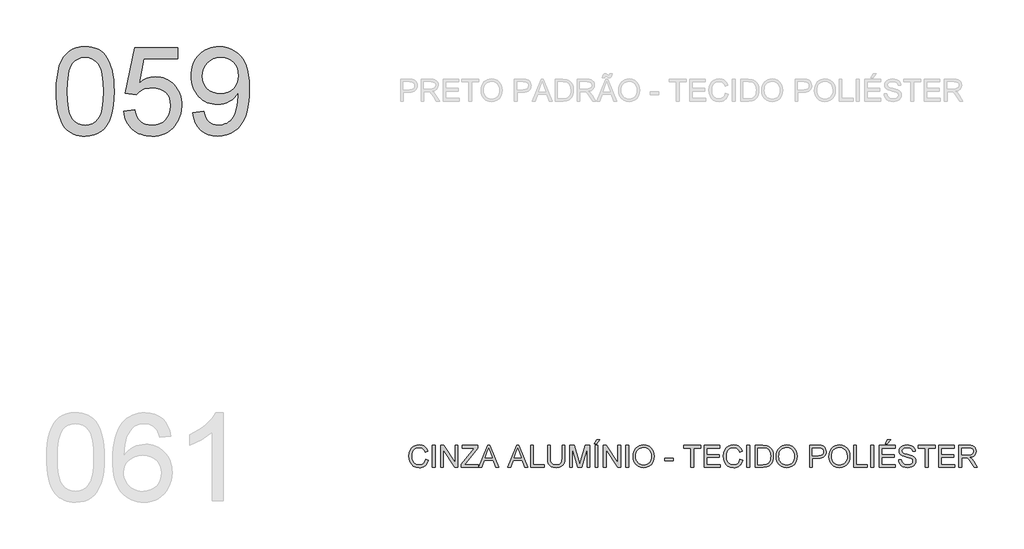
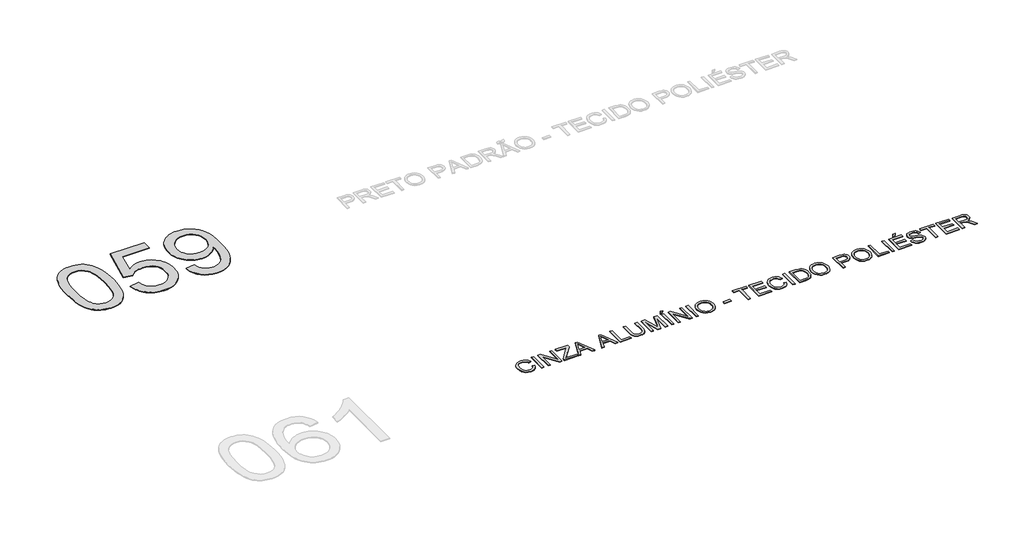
# One storey, part 13 of 67: 2 proxies.
"""IFC4 building model written with IfcOpenShell, lengths in millimetres."""

import ifcopenshell
import ifcopenshell.guid

model = None  # the IFC model being written
_history = None  # IfcOwnerHistory: only IFC2X3 demands one
_inside = {}  # id of a spatial element -> (the spatial element, [elements in it])
_under = {}  # id of a project, library or spatial element -> (it, [spatial elements below it])
_declared = {}  # id of a project -> (the project, [libraries it declares])
_typed = {}  # id of a type object -> (the type object, [elements of that type])
_made_of = {}  # id of a material, layer set ... -> (it, [elements and type objects made of it])


def new_model(schema):
    """Start an empty IFC model of exactly this schema.

    Asked for "IFC4X3", IfcOpenShell would pick the latest addendum, in which some entities
    have other attributes; the version numbers below select the first issue.
    IFC2X3 requires an IfcOwnerHistory on every rooted entity: one is made here for all.
    """
    global model, _history
    if schema == "IFC4X3":
        model = ifcopenshell.file(schema_version=(4, 3, 0, 0))
    else:
        model = ifcopenshell.file(schema=schema)
    _inside.clear()
    _under.clear()
    _declared.clear()
    _typed.clear()
    _made_of.clear()
    _history = None
    if model.schema == "IFC2X3":
        org = make("IfcOrganization", Name="unknown")
        user = make(
            "IfcPersonAndOrganization",
            ThePerson=make("IfcPerson", FamilyName="unknown"),
            TheOrganization=org,
        )
        app = make(
            "IfcApplication",
            ApplicationDeveloper=org,
            Version="unknown",
            ApplicationFullName="unknown",
            ApplicationIdentifier="unknown",
        )
        _history = make(
            "IfcOwnerHistory",
            OwningUser=user,
            OwningApplication=app,
            ChangeAction="ADDED",
            CreationDate=0,
        )
    return model


def make(cls, **values):
    """One entity of the class cls with the attributes given. An attribute that is None is left unset."""
    return model.create_entity(
        cls, **{name: value for name, value in values.items() if value is not None}
    )


def rooted(cls, **values):
    """An entity with a GlobalId (a new one), such as an element, a storey or a relation."""
    return make(cls, GlobalId=ifcopenshell.guid.new(), OwnerHistory=_history, **values)


def si_unit(unit_type, name, prefix=None):
    """IfcSIUnit, for example si_unit("LENGTHUNIT", "METRE", prefix="MILLI")."""
    return make("IfcSIUnit", UnitType=unit_type, Prefix=prefix, Name=name)


def assignment(units):
    """IfcUnitAssignment: the units of a project."""
    return None if units is None else make("IfcUnitAssignment", Units=units)


def point(xyz):
    """IfcCartesianPoint."""
    return None if xyz is None else make("IfcCartesianPoint", Coordinates=xyz)


def direction(xyz):
    """IfcDirection."""
    return None if xyz is None else make("IfcDirection", DirectionRatios=xyz)


def frame(location, z_axis=None, x_axis=None):
    """IfcAxis2Placement3D, a coordinate frame: its origin and axes. An axis left out is left unset."""
    return make(
        "IfcAxis2Placement3D",
        Location=point(location),
        Axis=direction(z_axis),
        RefDirection=direction(x_axis),
    )


def origin():
    """The frame at (0, 0, 0) with its axes left unset."""
    return frame((0.0, 0.0, 0.0))


def origin_with_axes():
    """The frame at (0, 0, 0) with the z axis (0, 0, 1) and the x axis (1, 0, 0) written out."""
    return frame((0.0, 0.0, 0.0), z_axis=(0.0, 0.0, 1.0), x_axis=(1.0, 0.0, 0.0))


def place(relative_to, where):
    """IfcLocalPlacement: puts the frame where relative to a parent placement (None: the world)."""
    return make(
        "IfcLocalPlacement", PlacementRelTo=relative_to, RelativePlacement=where
    )


def context(
    kind, dimensions, precision=None, world=None, true_north=None, identifier=None
):
    """IfcGeometricRepresentationContext, for example the 3D "Model" context."""
    return make(
        "IfcGeometricRepresentationContext",
        ContextIdentifier=identifier,
        ContextType=kind,
        CoordinateSpaceDimension=dimensions,
        Precision=precision,
        WorldCoordinateSystem=world,
        TrueNorth=true_north,
    )


def project(units=None, contexts=None):
    """IfcProject with its units and contexts."""
    return rooted(
        "IfcProject",
        Name="project",
        RepresentationContexts=contexts,
        UnitsInContext=assignment(units),
    )


def spatial(cls, under=None, at=None, **own):
    """A site, building, storey or space (cls), placed at a placement, below another one or the project."""
    s = rooted(cls, ObjectPlacement=at, **own)
    if under is not None:
        _under.setdefault(under.id(), (under, []))[1].append(s)
    return s


def polyline(points):
    """IfcPolyline through the points."""
    return make("IfcPolyline", Points=[point(p) for p in points])


def outline(outer, holes=None, kind="AREA"):
    """IfcArbitraryClosedProfileDef: a profile drawn as a closed curve; with holes, ...WithVoids."""
    if holes is None:
        return make("IfcArbitraryClosedProfileDef", ProfileType=kind, OuterCurve=outer)
    return make(
        "IfcArbitraryProfileDefWithVoids",
        ProfileType=kind,
        OuterCurve=outer,
        InnerCurves=holes,
    )


def extrude(swept, where, along, depth):
    """IfcExtrudedAreaSolid: the profile swept, set in the frame where, extruded along a direction by depth."""
    return make(
        "IfcExtrudedAreaSolid",
        SweptArea=swept,
        Position=where,
        ExtrudedDirection=direction(along),
        Depth=depth,
    )


def shape(context_of_items, identifier, shape_type, items):
    """IfcShapeRepresentation: the items that make up one representation, for example the "Body"."""
    return make(
        "IfcShapeRepresentation",
        ContextOfItems=context_of_items,
        RepresentationIdentifier=identifier,
        RepresentationType=shape_type,
        Items=items,
    )


def made_of(thing, what):
    """Note that an element or type object is made of a material, layer set ...; save() writes the relation."""
    if what is not None:
        _made_of.setdefault(what.id(), (what, []))[1].append(thing)
    return thing


def element(
    cls,
    number,
    at=None,
    inside=None,
    cuts=None,
    type_object=None,
    material=None,
    context=None,
    identifier="Body",
    shape_type=None,
    held_by="IfcProductDefinitionShape",
    body=None,
    shapes=None,
    **own,
):
    """One element of the class cls, such as IfcWall. Its Tag is "e" and its number.

    at: its placement. inside: the storey or other place that contains it. cuts: it is an
    opening in that element (IfcRelVoidsElement). A single representation is given by context,
    identifier, shape_type and body (its items); several are given by shapes. held_by: the class
    of the entity that holds the representations. save() writes the other relations.
    """
    e = rooted(cls, Tag="e%d" % number, ObjectPlacement=at, **own)
    if body is not None:
        shapes = [shape(context, identifier, shape_type, body)]
    if shapes is not None:
        e.Representation = make(held_by, Representations=shapes)
    if inside is not None:
        _inside.setdefault(inside.id(), (inside, []))[1].append(e)
    if cuts is not None:
        rooted(
            "IfcRelVoidsElement", RelatingBuildingElement=cuts, RelatedOpeningElement=e
        )
    if type_object is not None:
        _typed.setdefault(type_object.id(), (type_object, []))[1].append(e)
    return made_of(e, material)


def aggregate(whole, parts):
    """IfcRelAggregates: a whole, such as a stair, and the parts it consists of."""
    return rooted("IfcRelAggregates", RelatingObject=whole, RelatedObjects=parts)


def save(model, path):
    """Write the relations noted so far, then the file.

    IfcRelAggregates (storeys below a building ...), IfcRelContainedInSpatialStructure (elements
    in a storey), IfcRelDefinesByType, IfcRelAssociatesMaterial and IfcRelDeclares: one each for
    every whole, place, type object, material and project.
    """
    for whole, parts in _under.values():
        aggregate(whole, parts)
    for where, things in _inside.values():
        rooted(
            "IfcRelContainedInSpatialStructure",
            RelatedElements=things,
            RelatingStructure=where,
        )
    for kind, things in _typed.values():
        rooted("IfcRelDefinesByType", RelatedObjects=things, RelatingType=kind)
    for what, things in _made_of.values():
        rooted("IfcRelAssociatesMaterial", RelatedObjects=things, RelatingMaterial=what)
    for by, libraries in _declared.values():
        rooted("IfcRelDeclares", RelatingContext=by, RelatedDefinitions=libraries)
    model.write(path)


model = new_model("IFC4")

# Units and contexts
model_context = context("Model", 3, world=origin())
ifc_project = project(units=[si_unit("LENGTHUNIT", "METRE", prefix="MILLI")], contexts=[model_context])

# Site, building, storey
site = spatial("IfcSite", under=ifc_project)
building = spatial("IfcBuilding", under=site)
storey = spatial("IfcBuildingStorey", under=building, Name="Marelli - Linha COLAB - Planta Baixa", Elevation=0.0)

# Proxies
placement = place(None, origin())
element("IfcBuildingElementProxy", 1, Name="1200mm Arial", ObjectType="1200mm Arial", at=placement, inside=storey, context=model_context, shape_type="SweptSolid", body=[
    extrude(outline(polyline([(-25134.0424838, -59895.792664), (-25131.2741718, -59794.4319773), (-25122.9692358, -59702.8385576), (-25109.1276757, -59621.0124048), (-25089.7494916, -59548.953519), (-25064.9174569, -59486.073289), (-25034.7143451, -59431.7831035), (-24999.1401562, -59386.0829627), (-24958.1948901, -59348.9728664), (-24911.7405912, -59320.2596767), (-24859.6393036, -59299.7502555), (-24801.8910274, -59287.4446027), (-24738.4957626, -59283.3427185), (-24690.8550442, -59285.7707396), (-24645.642347, -59293.0548031), (-24602.857671, -59305.194909), (-24562.5010161, -59322.1910572), (-24525.5472697, -59343.7581391), (-24492.971319, -59369.6110463), (-24464.7731641, -59399.7497788), (-24440.9528049, -59434.1743365), (-24420.314625, -59472.7467637), (-24401.6630078, -59515.3291046), (-24370.3194618, -59612.5235278), (-24358.3449029, -59669.6831928), (-24349.7916465, -59735.9479371), (-24344.6596927, -59811.3177609), (-24342.9490414, -59895.792664), (-24345.6897623, -59996.5095573), (-24353.9119248, -60087.6431245), (-24367.6155292, -60169.1933658), (-24386.8005752, -60241.1602811), (-24411.4394718, -60304.0681023), (-24441.5046279, -60358.4410612), (-24476.9960434, -60404.2791578), (-24517.9137183, -60441.5823921), (-24564.4231995, -60470.4887199), (-24616.690034, -60491.1360968), (-24674.7142217, -60503.524523), (-24738.4957626, -60507.6539984), (-24781.170074, -60505.8605737), (-24821.4899407, -60500.4802995), (-24859.4553626, -60491.5131759), (-24895.0663398, -60478.9592028), (-24928.3228721, -60462.8183803), (-24959.2249597, -60443.0907083), (-24987.7726025, -60419.7761868), (-25013.9658006, -60392.8748159), (-25042.1087732, -60350.2786794), (-25066.4993495, -60302.0999336), (-25087.1375294, -60248.3385785), (-25104.023313, -60188.9946142), (-25117.1567002, -60124.0680406), (-25126.5376911, -60053.5588577), (-25132.1662856, -59977.4670655), (-25134.0424838, -59895.792664)]), holes=[polyline([(-24983.3580186, -59895.4983584), (-24978.9434347, -60026.4919399), (-24965.6996828, -60132.5247279), (-24955.766869, -60176.1808245), (-24943.6267631, -60213.5967226), (-24929.2793653, -60244.7724225), (-24912.7246755, -60269.7079239), (-24875.3478648, -60307.884878), (-24833.8507758, -60335.1541309), (-24788.2334084, -60351.5156826), (-24738.4957626, -60356.9695332), (-24688.7581169, -60351.4972885), (-24643.1407495, -60335.0805545), (-24601.6436604, -60307.7193311), (-24564.2668497, -60269.4136183), (-24547.7121599, -60244.418336), (-24533.3647621, -60213.2104465), (-24521.2246563, -60175.7899498), (-24511.2918424, -60132.1568459), (-24498.0480906, -60026.2528166), (-24493.6335066, -59895.4983584), (-24497.9009378, -59767.9720648), (-24510.7032312, -59663.8062779), (-24520.3049513, -59620.4835744), (-24532.0403869, -59583.0009976), (-24545.9095381, -59551.3585475), (-24561.9124049, -59525.5562241), (-24598.6638162, -59485.5122689), (-24640.6391519, -59456.9094438), (-24687.8384119, -59439.7477487), (-24740.2615962, -59434.0271837), (-24789.7417245, -59439.067167), (-24834.5865397, -59454.187117), (-24874.7960418, -59479.3870337), (-24910.3702308, -59514.666917), (-24927.4767435, -59543.2145599), (-24942.3023879, -59577.2068562), (-24954.847164, -59616.6438061), (-24965.1110716, -59661.5254095), (-24978.7962819, -59767.6225769), (-24983.3580186, -59895.4983584)])]), origin_with_axes(), (0.0, 0.0, 1.0), 10.0),
    extrude(outline(polyline([(-24211.1001343, -60168.6139517), (-24060.4156691, -60149.7783935), (-24049.15848, -60198.2192552), (-24032.7509431, -60240.2405761), (-24011.1930581, -60275.8423562), (-23984.4848253, -60305.0245955), (-23952.6814268, -60327.7505057), (-23915.838045, -60343.9832988), (-23873.9546798, -60353.7229746), (-23827.0313314, -60356.9695332), (-23769.6417401, -60352.4537817), (-23719.0211776, -60338.9065272), (-23675.1696437, -60316.3277698), (-23638.0871386, -60284.7175093), (-23608.6013967, -60245.6392444), (-23587.5401525, -60200.6564734), (-23574.903406, -60149.7691965), (-23570.6911571, -60092.9774135), (-23574.6366915, -60039.3034304), (-23586.4732947, -59991.5891356), (-23606.2009667, -59949.8345291), (-23633.8197075, -59914.039611), (-23669.4214876, -59885.3264213), (-23713.0982775, -59864.817), (-23764.8500771, -59852.5113473), (-23824.6768866, -59848.4094631), (-23862.9642052, -59850.0465379), (-23897.775039, -59854.9577626), (-23929.109388, -59863.143137), (-23956.9672521, -59874.6026611), (-24004.2400884, -59904.6954083), (-24041.5801109, -59942.5872538), (-24192.2645762, -59923.7516957), (-24060.4156691, -59302.1782766), (-23476.5133664, -59302.1782766), (-23476.5133664, -59452.8627418), (-23938.5731523, -59452.8627418), (-24003.0260778, -59784.8394543), (-23949.8487354, -59746.7268796), (-23895.3838061, -59719.503612), (-23839.6312897, -59703.1696514), (-23782.5911863, -59697.7249978), (-23745.1522955, -59699.4126565), (-23709.2079254, -59704.4756324), (-23674.7580758, -59712.9139257), (-23641.8027468, -59724.7275363), (-23610.3419384, -59739.9164642), (-23580.3756506, -59758.4807093), (-23551.9038835, -59780.4202718), (-23524.9266369, -59805.7351516), (-23500.3360248, -59833.7033803), (-23479.024161, -59863.6029895), (-23460.9910454, -59895.4339791), (-23446.2366781, -59929.1963492), (-23434.7610592, -59964.8900998), (-23426.5641885, -60002.5152308), (-23421.646066, -60042.0717424), (-23420.0066919, -60083.5596344), (-23425.9111979, -60161.6241938), (-23433.2918304, -60198.6147284), (-23443.624716, -60234.2440996), (-23456.9098545, -60268.5123075), (-23473.1472461, -60301.4193519), (-23492.3368907, -60332.965233), (-23514.4787883, -60363.1499507), (-23544.479565, -60397.0180869), (-23577.0923038, -60426.3704716), (-23612.3170049, -60451.2071048), (-23650.1536681, -60471.5279865), (-23690.6022934, -60487.3331167), (-23733.662881, -60498.6224954), (-23779.3354307, -60505.3961227), (-23827.6199425, -60507.6539984), (-23905.3809993, -60501.8506599), (-23941.4403326, -60494.5964869), (-23975.6188692, -60484.4406445), (-24007.9166091, -60471.383133), (-24038.3335523, -60455.4239522), (-24066.8696989, -60436.5631021), (-24093.5250487, -60414.8005828), (-24117.8627419, -60390.6422321), (-24139.4459187, -60364.5938875), (-24158.2745791, -60336.6555493), (-24174.348723, -60306.8272173), (-24187.6683505, -60275.1088915), (-24198.2334615, -60241.500572), (-24211.1001343, -60168.6139517)])), origin_with_axes(), (0.0, 0.0, 1.0), 10.0),
    extrude(outline(polyline([(-23269.3222267, -60187.4495098), (-23118.6377614, -60168.6139517), (-23107.7852426, -60214.7923391), (-23092.8860218, -60254.1465155), (-23073.940099, -60286.676481), (-23050.9474743, -60312.3822354), (-23024.1656651, -60331.8891782), (-22993.8521887, -60345.8227087), (-22960.0070451, -60354.1828271), (-22922.6302344, -60356.9695332), (-22889.9531162, -60355.1761085), (-22858.7291319, -60349.7958343), (-22828.9582814, -60340.8287107), (-22800.6405648, -60328.2747376), (-22774.7784606, -60312.7225262), (-22752.374447, -60294.7606878), (-22733.4285243, -60274.3892223), (-22717.9406923, -60251.6081298), (-22691.8578588, -60194.8807261), (-22668.6445049, -60120.6421395), (-22652.3105444, -60035.4406694), (-22646.8658908, -59945.8246154), (-22647.7488076, -59916.3940558), (-22671.8358813, -59949.9081055), (-22699.9512627, -59980.1112173), (-22732.0949521, -60007.0033912), (-22768.2669492, -60030.5846271), (-22807.2348496, -60049.7696731), (-22847.7662484, -60063.4732774), (-22889.8611457, -60071.69544), (-22933.5195415, -60074.4361609), (-22970.0295302, -60072.7622978), (-23005.1001807, -60067.7407086), (-23038.7314928, -60059.3713932), (-23070.9234667, -60047.6543516), (-23101.6761022, -60032.5895839), (-23130.9893994, -60014.1770901), (-23158.8633584, -59992.4168701), (-23185.297979, -59967.3089239), (-23209.405746, -59939.4648554), (-23230.299144, -59909.4962684), (-23247.9781732, -59877.4031628), (-23262.4428334, -59843.1855387), (-23273.6931246, -59806.8433961), (-23281.729047, -59768.376735), (-23286.5506004, -59727.7855554), (-23288.1577848, -59685.0698572), (-23286.4724254, -59640.9240178), (-23281.4163473, -59598.9854703), (-23272.9895503, -59559.2542149), (-23261.1920346, -59521.7302513), (-23246.0238001, -59486.4135798), (-23227.4848468, -59453.3042002), (-23205.5751747, -59422.4021126), (-23180.2947838, -59393.707317), (-23152.4760072, -59367.8406142), (-23122.9511778, -59345.4228052), (-23091.7202957, -59326.4538898), (-23058.7833608, -59310.9338681), (-23024.1403732, -59298.8627401), (-22987.7913328, -59290.2405059), (-22949.7362397, -59285.0671653), (-22909.9750938, -59283.3427185), (-22852.5211232, -59287.2790558), (-22797.5871443, -59299.0880679), (-22745.173157, -59318.7697546), (-22695.2791614, -59346.324116), (-22649.5698235, -59381.162541), (-22609.7098093, -59422.6964182), (-22575.6991189, -59470.9257478), (-22547.5377521, -59525.8505297), (-22525.4556354, -59590.634549), (-22509.6826948, -59668.441591), (-22500.2189305, -59759.2716556), (-22497.0643424, -59863.1247429), (-22500.2097335, -59972.1925574), (-22509.6459066, -60069.5433304), (-22525.3728619, -60155.1770618), (-22547.3905993, -60229.0937517), (-22575.6163454, -60293.0960218), (-22609.9673267, -60348.9864939), (-22650.4435432, -60396.765168), (-22697.044995, -60436.4320442), (-22748.8335828, -60467.5916491), (-22804.8712078, -60489.8485099), (-22865.1578697, -60503.2026263), (-22929.6935687, -60507.6539984), (-22997.3654617, -60502.4024829), (-23058.5258434, -60486.6479365), (-23113.1747138, -60460.3903591), (-23161.3120729, -60423.6297507), (-23201.7239101, -60377.3593928), (-23233.1962147, -60322.5725666), (-23255.7289869, -60259.2692723), (-23269.3222267, -60187.4495098)]), holes=[polyline([(-22647.7488076, -59681.53819), (-22651.8139037, -59627.5331132), (-22664.0091918, -59579.4141482), (-22684.334672, -59537.1812951), (-22712.7903444, -59500.834554), (-22747.9782572, -59471.6063295), (-22788.500459, -59450.7290263), (-22834.3569497, -59438.2026443), (-22885.5477293, -59434.0271837), (-22938.3755838, -59438.5245411), (-22986.2002432, -59452.0166133), (-23029.0217074, -59474.5034002), (-23066.8399765, -59505.984902), (-23097.7420641, -59544.6217085), (-23119.8149838, -59588.5744099), (-23133.0587357, -59637.8430061), (-23137.4733196, -59692.4274971), (-23133.297859, -59741.3833936), (-23120.771477, -59785.5384301), (-23099.8941738, -59824.8926065), (-23070.6659493, -59859.4459229), (-23034.3008141, -59887.5796985), (-22992.0127787, -59907.6752525), (-22943.8018432, -59919.7325849), (-22889.6680076, -59923.7516957), (-22839.1854009, -59919.7325849), (-22793.3932895, -59907.6752525), (-22752.2916736, -59887.5796985), (-22715.8805531, -59859.4459229), (-22686.0729145, -59824.2120248), (-22664.781744, -59782.8161033), (-22652.0070417, -59735.2581584), (-22647.7488076, -59681.53819)])]), origin_with_axes(), (0.0, 0.0, 1.0), 10.0),
])
element("IfcBuildingElementProxy", 2, Name="300mm Arial", ObjectType="300mm Arial", at=placement, inside=storey, context=model_context, shape_type="SweptSolid", body=[
    extrude(outline(polyline([(-20089.728378, -64923.4390831), (-20052.0572617, -64933.1511677), (-20059.5114706, -64956.5783531), (-20069.439686, -64977.0486868), (-20081.8419078, -64994.5621691), (-20096.7181359, -65009.1187997), (-20113.7326782, -65020.5622291), (-20132.5498423, -65028.7361071), (-20153.1696281, -65033.640434), (-20175.5920357, -65035.2752096), (-20219.2872197, -65030.3271968), (-20253.9876889, -65015.4831583), (-20280.5855571, -64991.2581289), (-20299.9729383, -64958.1671434), (-20311.8095415, -64919.2636224), (-20315.7550759, -64877.6009865), (-20311.2945067, -64833.6574821), (-20297.9127991, -64795.7104543), (-20276.3089289, -64764.9647166), (-20247.181872, -64742.6250824), (-20212.6377526, -64729.0226457), (-20174.7826953, -64724.4885001), (-20133.4787443, -64730.3562179), (-20115.5100081, -64737.6908652), (-20099.3300981, -64747.9593714), (-20085.2057287, -64760.8904235), (-20073.4036145, -64776.2127086), (-20056.7661513, -64814.0309777), (-20094.4372676, -64823.0072984), (-20107.4970784, -64795.5357104), (-20125.3393552, -64776.6909552), (-20148.1848271, -64765.7924511), (-20176.2542233, -64762.1596164), (-20208.6094448, -64766.1879242), (-20235.1889189, -64778.2728478), (-20255.3580493, -64797.1451941), (-20268.4822395, -64821.5357704), (-20275.6835295, -64849.1085259), (-20278.0839596, -64877.5274101), (-20275.2420711, -64912.3290468), (-20266.7164059, -64942.421794), (-20252.1850671, -64966.6560205), (-20231.326158, -64983.8820949), (-20206.3193793, -64994.1735937), (-20179.3444321, -64997.6040933), (-20147.8997185, -64992.931992), (-20121.6973234, -64978.9156879), (-20101.9144691, -64955.702334), (-20089.728378, -64923.4390831)])), origin_with_axes(), (0.0, 0.0, 1.0), 10.0),
    extrude(outline(polyline([(-19995.5505873, -65030.5663201), (-19995.5505873, -64729.1973896), (-19957.879471, -64729.1973896), (-19957.879471, -65030.5663201), (-19995.5505873, -65030.5663201)])), origin_with_axes(), (0.0, 0.0, 1.0), 10.0),
    extrude(outline(polyline([(-19882.5372383, -65030.5663201), (-19882.5372383, -64729.1973896), (-19842.2173717, -64729.1973896), (-19684.7638777, -64967.9528045), (-19684.7638777, -64729.1973896), (-19647.0927614, -64729.1973896), (-19647.0927614, -65030.5663201), (-19687.4126281, -65030.5663201), (-19844.866122, -64791.7373288), (-19844.866122, -65030.5663201), (-19882.5372383, -65030.5663201)])), origin_with_axes(), (0.0, 0.0, 1.0), 10.0),
    extrude(outline(polyline([(-19604.7127556, -65030.5663201), (-19604.7127556, -64991.4972522), (-19450.5701996, -64802.7737887), (-19421.2867928, -64766.8685059), (-19585.8771974, -64766.8685059), (-19585.8771974, -64729.1973896), (-19373.9771682, -64729.1973896), (-19373.9771682, -64766.8685059), (-19542.6878512, -64973.397458), (-19558.5803534, -64992.8952038), (-19369.2682787, -64992.8952038), (-19369.2682787, -65030.5663201), (-19604.7127556, -65030.5663201)])), origin_with_axes(), (0.0, 0.0, 1.0), 10.0),
    extrude(outline(polyline([(-19361.9842152, -65030.5663201), (-19241.6868027, -64729.1973896), (-19209.6074928, -64729.1973896), (-19089.3100803, -65030.5663201), (-19129.1149122, -65030.5663201), (-19163.6222434, -64936.3885293), (-19287.7456285, -64936.3885293), (-19322.1793833, -65030.5663201), (-19361.9842152, -65030.5663201)]), holes=[polyline([(-19273.9132655, -64898.717413), (-19177.38103, -64898.717413), (-19204.5307212, -64824.6259792), (-19225.6471478, -64766.8685059), (-19244.4091295, -64818.1512561), (-19273.9132655, -64898.717413)])]), origin_with_axes(), (0.0, 0.0, 1.0), 10.0),
    extrude(outline(polyline([(-18966.437494, -65030.5663201), (-18846.1400815, -64729.1973896), (-18814.0607716, -64729.1973896), (-18693.7633591, -65030.5663201), (-18733.568191, -65030.5663201), (-18768.0755222, -64936.3885293), (-18892.1989073, -64936.3885293), (-18926.6326621, -65030.5663201), (-18966.437494, -65030.5663201)]), holes=[polyline([(-18878.3665443, -64898.717413), (-18781.8343088, -64898.717413), (-18808.984, -64824.6259792), (-18830.1004265, -64766.8685059), (-18848.8624083, -64818.1512561), (-18878.3665443, -64898.717413)])]), origin_with_axes(), (0.0, 0.0, 1.0), 10.0),
    extrude(outline(polyline([(-18653.5170689, -65030.5663201), (-18653.5170689, -64729.1973896), (-18615.8459525, -64729.1973896), (-18615.8459525, -64992.8952038), (-18465.1614873, -64992.8952038), (-18465.1614873, -65030.5663201), (-18653.5170689, -65030.5663201)])), origin_with_axes(), (0.0, 0.0, 1.0), 10.0),
    extrude(outline(polyline([(-18225.0081209, -64729.1973896), (-18187.3370046, -64729.1973896), (-18187.3370046, -64903.0584205), (-18189.8937844, -64943.7737604), (-18197.564124, -64975.1265034), (-18211.8931277, -64999.3147446), (-18234.4258999, -65018.5365788), (-18265.2176229, -65031.0905519), (-18304.323479, -65035.2752096), (-18342.5740095, -65031.6331779), (-18373.1542003, -65020.7070826), (-18396.0732486, -65002.8740029), (-18411.3403514, -64978.5110178), (-18419.921199, -64945.8338995), (-18422.7814815, -64903.0584205), (-18422.7814815, -64729.1973896), (-18385.1103652, -64729.1973896), (-18385.1103652, -64901.7340454), (-18383.2525611, -64935.588386), (-18377.6791489, -64959.1604248), (-18367.5807881, -64975.4851883), (-18352.1481384, -64987.597703), (-18332.0249933, -64995.1024957), (-18307.8551462, -64997.6040933), (-18269.5402364, -64992.6560805), (-18255.1974371, -64986.4710644), (-18244.0644082, -64977.812042), (-18235.7272825, -64965.6351479), (-18229.7721927, -64948.8965171), (-18225.0081209, -64901.7340454), (-18225.0081209, -64729.1973896)])), origin_with_axes(), (0.0, 0.0, 1.0), 10.0),
    extrude(outline(polyline([(-18121.412551, -65030.5663201), (-18121.412551, -64729.1973896), (-18056.5917435, -64729.1973896), (-17994.9347211, -64941.6124536), (-17982.5003097, -64985.9790223), (-17969.0358286, -64937.9336337), (-17908.4088758, -64729.1973896), (-17843.5880683, -64729.1973896), (-17843.5880683, -65030.5663201), (-17881.2591846, -65030.5663201), (-17881.2591846, -64766.8685059), (-17956.9692992, -65030.5663201), (-18008.0313201, -65030.5663201), (-18083.7414347, -64766.8685059), (-18083.7414347, -65030.5663201), (-18121.412551, -65030.5663201)])), origin_with_axes(), (0.0, 0.0, 1.0), 10.0),
    extrude(outline(polyline([(-17772.9547252, -65030.5663201), (-17772.9547252, -64729.1973896), (-17735.2836089, -64729.1973896), (-17735.2836089, -65030.5663201), (-17772.9547252, -65030.5663201)])), origin_with_axes(), (0.0, 0.0, 1.0), 10.0),
    extrude(outline(polyline([(-17782.3725043, -64710.3618315), (-17754.119167, -64653.855157), (-17707.0302717, -64653.855157), (-17754.119167, -64710.3618315), (-17782.3725043, -64710.3618315)])), origin_with_axes(), (0.0, 0.0, 1.0), 10.0),
    extrude(outline(polyline([(-17659.9413763, -65030.5663201), (-17659.9413763, -64729.1973896), (-17619.6215096, -64729.1973896), (-17462.1680157, -64967.9528045), (-17462.1680157, -64729.1973896), (-17424.4968994, -64729.1973896), (-17424.4968994, -65030.5663201), (-17464.816766, -65030.5663201), (-17622.27026, -64791.7373288), (-17622.27026, -65030.5663201), (-17659.9413763, -65030.5663201)])), origin_with_axes(), (0.0, 0.0, 1.0), 10.0),
    extrude(outline(polyline([(-17353.8635563, -65030.5663201), (-17353.8635563, -64729.1973896), (-17316.19244, -64729.1973896), (-17316.19244, -65030.5663201), (-17353.8635563, -65030.5663201)])), origin_with_axes(), (0.0, 0.0, 1.0), 10.0),
    extrude(outline(polyline([(-17254.976876, -64883.8549804), (-17252.4660814, -64848.5061192), (-17244.9336975, -64817.213157), (-17232.3797244, -64789.9760937), (-17214.8041621, -64766.7949295), (-17193.2600728, -64748.2858666), (-17168.8005186, -64735.0651074), (-17141.4254997, -64727.1326519), (-17111.1350159, -64724.4885001), (-17071.6060955, -64729.454907), (-17036.1606653, -64744.3541278), (-17006.7301056, -64768.1376988), (-16985.2457971, -64799.7571563), (-16972.1124099, -64837.68579), (-16967.7346142, -64880.3968896), (-16972.3423361, -64923.6782064), (-16986.1655021, -64962.140269), (-17008.4407569, -64993.8149087), (-17038.4047454, -65016.733957), (-17073.546673, -65030.6398965), (-17111.3557451, -65035.2752096), (-17151.4916707, -65030.1524528), (-17187.1394361, -65014.7841825), (-17216.4964193, -64990.5591531), (-17237.7599986, -64958.8661192), (-17250.6726566, -64922.3998164), (-17254.976876, -64883.8549804)]), holes=[polyline([(-17217.3057597, -64884.2228624), (-17215.4226637, -64909.1974513), (-17209.7733758, -64931.3669401), (-17200.357896, -64950.7313286), (-17187.1762243, -64967.2906169), (-17171.1526641, -64980.5527628), (-17153.2115191, -64990.0257242), (-17133.3527891, -64995.709501), (-17111.5764743, -64997.6040933), (-17089.4276789, -64995.6911069), (-17069.3344242, -64989.9521478), (-17051.2967101, -64980.3872159), (-17035.3145367, -64966.9963113), (-17022.229434, -64950.0875351), (-17012.882932, -64929.9689885), (-17007.2750309, -64906.6406715), (-17005.4057305, -64880.102584), (-17008.6063038, -64846.7540812), (-17018.2080239, -64817.9305269), (-17033.9625703, -64794.358488), (-17055.6216228, -64776.7645316), (-17081.7504415, -64765.8108452), (-17110.9142867, -64762.1596164), (-17131.9341442, -64763.9185522), (-17151.4364884, -64769.1953595), (-17169.4213195, -64777.9900385), (-17185.8886373, -64790.302589), (-17199.6336283, -64806.7262208), (-17209.4514791, -64827.8541437), (-17215.3421895, -64853.6863575), (-17217.3057597, -64884.2228624)])]), origin_with_axes(), (0.0, 0.0, 1.0), 10.0),
    extrude(outline(polyline([(-16821.7590385, -64941.0974188), (-16821.7590385, -64903.4263025), (-16704.0368, -64903.4263025), (-16704.0368, -64941.0974188), (-16821.7590385, -64941.0974188)])), origin_with_axes(), (0.0, 0.0, 1.0), 10.0),
    extrude(outline(polyline([(-16463.8834336, -65030.5663201), (-16463.8834336, -64766.8685059), (-16562.7701139, -64766.8685059), (-16562.7701139, -64729.1973896), (-16327.325637, -64729.1973896), (-16327.325637, -64766.8685059), (-16426.2123173, -64766.8685059), (-16426.2123173, -65030.5663201), (-16463.8834336, -65030.5663201)])), origin_with_axes(), (0.0, 0.0, 1.0), 10.0),
    extrude(outline(polyline([(-16284.9456311, -65030.5663201), (-16284.9456311, -64729.1973896), (-16068.3367123, -64729.1973896), (-16068.3367123, -64766.8685059), (-16247.2745148, -64766.8685059), (-16247.2745148, -64856.3374072), (-16077.7544914, -64856.3374072), (-16077.7544914, -64894.0085235), (-16247.2745148, -64894.0085235), (-16247.2745148, -64992.8952038), (-16063.6278228, -64992.8952038), (-16063.6278228, -65030.5663201), (-16284.9456311, -65030.5663201)])), origin_with_axes(), (0.0, 0.0, 1.0), 10.0),
    extrude(outline(polyline([(-15795.2211191, -64923.4390831), (-15757.5500028, -64933.1511677), (-15765.0042118, -64956.5783531), (-15774.9324271, -64977.0486868), (-15787.3346489, -64994.5621691), (-15802.210877, -65009.1187997), (-15819.2254193, -65020.5622291), (-15838.0425834, -65028.7361071), (-15858.6623692, -65033.640434), (-15881.0847768, -65035.2752096), (-15924.7799608, -65030.3271968), (-15959.48043, -65015.4831583), (-15986.0782982, -64991.2581289), (-16005.4656794, -64958.1671434), (-16017.3022826, -64919.2636224), (-16021.247817, -64877.6009865), (-16016.7872478, -64833.6574821), (-16003.4055402, -64795.7104543), (-15981.80167, -64764.9647166), (-15952.6746131, -64742.6250824), (-15918.1304937, -64729.0226457), (-15880.2754364, -64724.4885001), (-15838.9714854, -64730.3562179), (-15821.0027492, -64737.6908652), (-15804.8228392, -64747.9593714), (-15790.6984699, -64760.8904235), (-15778.8963556, -64776.2127086), (-15762.2588924, -64814.0309777), (-15799.9300087, -64823.0072984), (-15812.9898195, -64795.5357104), (-15830.8320963, -64776.6909552), (-15853.6775682, -64765.7924511), (-15881.7469644, -64762.1596164), (-15914.1021859, -64766.1879242), (-15940.68166, -64778.2728478), (-15960.8507904, -64797.1451941), (-15973.9749806, -64821.5357704), (-15981.1762706, -64849.1085259), (-15983.5767007, -64877.5274101), (-15980.7348122, -64912.3290468), (-15972.209147, -64942.421794), (-15957.6778082, -64966.6560205), (-15936.8188991, -64983.8820949), (-15911.8121205, -64994.1735937), (-15884.8371732, -64997.6040933), (-15853.3924596, -64992.931992), (-15827.1900645, -64978.9156879), (-15807.4072102, -64955.702334), (-15795.2211191, -64923.4390831)])), origin_with_axes(), (0.0, 0.0, 1.0), 10.0),
    extrude(outline(polyline([(-15701.0433284, -65030.5663201), (-15701.0433284, -64729.1973896), (-15663.3722121, -64729.1973896), (-15663.3722121, -65030.5663201), (-15701.0433284, -65030.5663201)])), origin_with_axes(), (0.0, 0.0, 1.0), 10.0),
    extrude(outline(polyline([(-15588.0299794, -65030.5663201), (-15588.0299794, -64729.1973896), (-15484.0665276, -64729.1973896), (-15430.2821799, -64733.5383972), (-15406.2594856, -64741.9077126), (-15385.9891877, -64755.0962821), (-15365.1486727, -64778.0521186), (-15350.3046342, -64806.5997614), (-15341.420284, -64840.1873876), (-15338.4588339, -64878.2631741), (-15340.4637908, -64910.6091985), (-15346.4786614, -64939.0740679), (-15355.6389231, -64963.3082943), (-15367.0800531, -64982.9623899), (-15380.2502286, -64998.477813), (-15394.5976264, -65010.2960221), (-15411.0695427, -65019.0608107), (-15430.6132737, -65025.4159721), (-15479.0633325, -65030.5663201), (-15588.0299794, -65030.5663201)]), holes=[polyline([(-15550.3588631, -64992.8952038), (-15483.6986456, -64992.8952038), (-15456.1258901, -64991.5340404), (-15435.2117986, -64987.4505502), (-15419.4296611, -64980.8838566), (-15407.252767, -64972.0730828), (-15394.165365, -64955.7667134), (-15384.3337187, -64934.6594839), (-15378.1808923, -64908.6594239), (-15376.1299502, -64877.6745629), (-15380.149061, -64836.6189322), (-15392.2063934, -64806.3054558), (-15410.021079, -64785.4833349), (-15431.3122495, -64772.9017706), (-15452.980499, -64768.3768221), (-15484.7287152, -64766.8685059), (-15550.3588631, -64766.8685059), (-15550.3588631, -64992.8952038)])]), origin_with_axes(), (0.0, 0.0, 1.0), 10.0),
    extrude(outline(polyline([(-15300.7877176, -64883.8549804), (-15298.276923, -64848.5061192), (-15290.7445391, -64817.213157), (-15278.1905661, -64789.9760937), (-15260.6150037, -64766.7949295), (-15239.0709144, -64748.2858666), (-15214.6113602, -64735.0651074), (-15187.2363413, -64727.1326519), (-15156.9458575, -64724.4885001), (-15117.4169371, -64729.454907), (-15081.9715069, -64744.3541278), (-15052.5409473, -64768.1376988), (-15031.0566387, -64799.7571563), (-15017.9232515, -64837.68579), (-15013.5454558, -64880.3968896), (-15018.1531778, -64923.6782064), (-15031.9763437, -64962.140269), (-15054.2515985, -64993.8149087), (-15084.2155871, -65016.733957), (-15119.3575146, -65030.6398965), (-15157.1665867, -65035.2752096), (-15197.3025124, -65030.1524528), (-15232.9502777, -65014.7841825), (-15262.3072609, -64990.5591531), (-15283.5708402, -64958.8661192), (-15296.4834983, -64922.3998164), (-15300.7877176, -64883.8549804)]), holes=[polyline([(-15263.1166013, -64884.2228624), (-15261.2335053, -64909.1974513), (-15255.5842175, -64931.3669401), (-15246.1687376, -64950.7313286), (-15232.9870659, -64967.2906169), (-15216.9635057, -64980.5527628), (-15199.0223607, -64990.0257242), (-15179.1636307, -64995.709501), (-15157.3873159, -64997.6040933), (-15135.2385205, -64995.6911069), (-15115.1452658, -64989.9521478), (-15097.1075517, -64980.3872159), (-15081.1253783, -64966.9963113), (-15068.0402756, -64950.0875351), (-15058.6937736, -64929.9689885), (-15053.0858725, -64906.6406715), (-15051.2165721, -64880.102584), (-15054.4171454, -64846.7540812), (-15064.0188655, -64817.9305269), (-15079.773412, -64794.358488), (-15101.4324644, -64776.7645316), (-15127.5612831, -64765.8108452), (-15156.7251283, -64762.1596164), (-15177.7449858, -64763.9185522), (-15197.2473301, -64769.1953595), (-15215.2321611, -64777.9900385), (-15231.6994789, -64790.302589), (-15245.44447, -64806.7262208), (-15255.2623207, -64827.8541437), (-15261.1530312, -64853.6863575), (-15263.1166013, -64884.2228624)])]), origin_with_axes(), (0.0, 0.0, 1.0), 10.0),
    extrude(outline(polyline([(-14844.0254324, -65030.5663201), (-14844.0254324, -64729.1973896), (-14732.3364587, -64729.1973896), (-14687.3077025, -64732.0668692), (-14667.2305426, -64737.4287493), (-14650.7034439, -64746.1567496), (-14637.3953128, -64758.6463433), (-14626.9750552, -64775.2930036), (-14620.2428147, -64794.9287051), (-14617.9987346, -64816.3854225), (-14619.5139485, -64834.8852883), (-14624.0595904, -64851.9044291), (-14631.6356603, -64867.4428449), (-14642.242158, -64881.5005356), (-14656.8033873, -64893.1531978), (-14676.2436515, -64901.476528), (-14700.5629506, -64906.470526), (-14729.7612847, -64908.1351921), (-14806.3543161, -64908.1351921), (-14806.3543161, -65030.5663201), (-14844.0254324, -65030.5663201)]), holes=[polyline([(-14806.3543161, -64870.4640758), (-14727.5539927, -64870.4640758), (-14694.1503076, -64867.005985), (-14672.0773879, -64856.6317127), (-14659.7717351, -64839.9850525), (-14655.6698509, -64817.7097977), (-14658.088675, -64800.7872259), (-14665.3451473, -64786.5134045), (-14676.537957, -64775.7712502), (-14690.7657932, -64769.4436799), (-14728.4369095, -64766.8685059), (-14806.3543161, -64766.8685059), (-14806.3543161, -64870.4640758)])]), origin_with_axes(), (0.0, 0.0, 1.0), 10.0),
    extrude(outline(polyline([(-14580.3276183, -64883.8549804), (-14577.8168236, -64848.5061192), (-14570.2844398, -64817.213157), (-14557.7304667, -64789.9760937), (-14540.1549044, -64766.7949295), (-14518.610815, -64748.2858666), (-14494.1512609, -64735.0651074), (-14466.7762419, -64727.1326519), (-14436.4857581, -64724.4885001), (-14396.9568378, -64729.454907), (-14361.5114075, -64744.3541278), (-14332.0808479, -64768.1376988), (-14310.5965394, -64799.7571563), (-14297.4631522, -64837.68579), (-14293.0853564, -64880.3968896), (-14297.6930784, -64923.6782064), (-14311.5162444, -64962.140269), (-14333.7914992, -64993.8149087), (-14363.7554877, -65016.733957), (-14398.8974153, -65030.6398965), (-14436.7064873, -65035.2752096), (-14476.842413, -65030.1524528), (-14512.4901783, -65014.7841825), (-14541.8471616, -64990.5591531), (-14563.1107409, -64958.8661192), (-14576.0233989, -64922.3998164), (-14580.3276183, -64883.8549804)]), holes=[polyline([(-14542.656502, -64884.2228624), (-14540.773406, -64909.1974513), (-14535.1241181, -64931.3669401), (-14525.7086383, -64950.7313286), (-14512.5269665, -64967.2906169), (-14496.5034064, -64980.5527628), (-14478.5622613, -64990.0257242), (-14458.7035314, -64995.709501), (-14436.9272165, -64997.6040933), (-14414.7784212, -64995.6911069), (-14394.6851664, -64989.9521478), (-14376.6474524, -64980.3872159), (-14360.6652789, -64966.9963113), (-14347.5801762, -64950.0875351), (-14338.2336743, -64929.9689885), (-14332.6257731, -64906.6406715), (-14330.7564727, -64880.102584), (-14333.9570461, -64846.7540812), (-14343.5587662, -64817.9305269), (-14359.3133126, -64794.358488), (-14380.9723651, -64776.7645316), (-14407.1011838, -64765.8108452), (-14436.2650289, -64762.1596164), (-14457.2848864, -64763.9185522), (-14476.7872307, -64769.1953595), (-14494.7720618, -64777.9900385), (-14511.2393796, -64790.302589), (-14524.9843706, -64806.7262208), (-14534.8022214, -64827.8541437), (-14540.6929318, -64853.6863575), (-14542.656502, -64884.2228624)])]), origin_with_axes(), (0.0, 0.0, 1.0), 10.0),
    extrude(outline(polyline([(-14241.2875715, -65030.5663201), (-14241.2875715, -64729.1973896), (-14203.6164552, -64729.1973896), (-14203.6164552, -64992.8952038), (-14052.93199, -64992.8952038), (-14052.93199, -65030.5663201), (-14241.2875715, -65030.5663201)])), origin_with_axes(), (0.0, 0.0, 1.0), 10.0),
    extrude(outline(polyline([(-14005.8430946, -65030.5663201), (-14005.8430946, -64729.1973896), (-13968.1719783, -64729.1973896), (-13968.1719783, -65030.5663201), (-14005.8430946, -65030.5663201)])), origin_with_axes(), (0.0, 0.0, 1.0), 10.0),
    extrude(outline(polyline([(-13892.8297457, -65030.5663201), (-13892.8297457, -64729.1973896), (-13676.2208269, -64729.1973896), (-13676.2208269, -64766.8685059), (-13855.1586294, -64766.8685059), (-13855.1586294, -64856.3374072), (-13685.638606, -64856.3374072), (-13685.638606, -64894.0085235), (-13855.1586294, -64894.0085235), (-13855.1586294, -64992.8952038), (-13671.5119374, -64992.8952038), (-13671.5119374, -65030.5663201), (-13892.8297457, -65030.5663201)])), origin_with_axes(), (0.0, 0.0, 1.0), 10.0),
    extrude(outline(polyline([(-13808.069734, -64710.3618315), (-13779.8163968, -64653.855157), (-13732.7275014, -64653.855157), (-13779.8163968, -64710.3618315), (-13808.069734, -64710.3618315)])), origin_with_axes(), (0.0, 0.0, 1.0), 10.0),
    extrude(outline(polyline([(-13629.1319315, -64926.9707502), (-13591.4608152, -64926.9707502), (-13587.1382018, -64947.8756446), (-13579.3207094, -64964.6786547), (-13567.1254212, -64978.0143771), (-13549.6694206, -64988.517408), (-13528.3322649, -64995.332422), (-13504.4935116, -64997.6040933), (-13483.5058437, -64995.884245), (-13465.1301381, -64990.7247), (-13450.2401143, -64982.5577197), (-13439.7094922, -64971.8155654), (-13433.4463012, -64959.4823215), (-13431.3585709, -64946.5420724), (-13432.9220694, -64933.932917), (-13437.6125648, -64923.0344129), (-13447.1407085, -64913.7361954), (-13463.2171517, -64905.9279001), (-13518.0683572, -64891.5437141), (-13554.0748075, -64882.0247675), (-13577.1134174, -64872.9656733), (-13595.8662021, -64860.2921386), (-13609.1559392, -64844.9330653), (-13617.0745991, -64827.2195472), (-13619.7141525, -64807.4826782), (-13616.4491997, -64785.4189555), (-13606.6543416, -64764.845155), (-13590.5870955, -64747.4075484), (-13568.5049787, -64734.7524077), (-13541.999081, -64727.054477), (-13512.6604919, -64724.4885001), (-13480.8754875, -64727.1740386), (-13453.0636086, -64735.2306543), (-13430.2181367, -64748.4928003), (-13413.3323532, -64766.7949295), (-13402.6453812, -64788.9966079), (-13398.3963442, -64813.9574013), (-13436.0674605, -64813.9574013), (-13442.983642, -64791.4798114), (-13457.4046162, -64775.2562154), (-13479.9373884, -64765.4337661), (-13511.1889639, -64762.1596164), (-13543.1763034, -64765.3969779), (-13565.1204644, -64775.1090626), (-13577.8123932, -64789.4012781), (-13582.0430361, -64806.3790322), (-13579.0447979, -64820.8551887), (-13570.0500831, -64832.4986539), (-13548.7865038, -64842.9097143), (-13508.5402135, -64853.541504), (-13467.0063363, -64863.6398648), (-13441.879996, -64872.4506385), (-13420.4048845, -64886.1174547), (-13405.4228903, -64902.9848441), (-13396.6213135, -64922.868866), (-13393.6874546, -64945.5855792), (-13397.0627719, -64968.8081301), (-13407.1887238, -64990.6511236), (-13423.6514431, -65009.4498935), (-13446.0370625, -65023.539774), (-13472.9568275, -65032.3413507), (-13503.0219836, -65035.2752096), (-13539.9297447, -65032.1114244), (-13570.3076005, -65022.620069), (-13594.5050387, -65006.764355), (-13612.8715473, -64984.5074943), (-13624.6621653, -64957.3945912), (-13629.1319315, -64926.9707502)])), origin_with_axes(), (0.0, 0.0, 1.0), 10.0),
    extrude(outline(polyline([(-13261.8385475, -65030.5663201), (-13261.8385475, -64766.8685059), (-13360.7252278, -64766.8685059), (-13360.7252278, -64729.1973896), (-13125.2807509, -64729.1973896), (-13125.2807509, -64766.8685059), (-13224.1674312, -64766.8685059), (-13224.1674312, -65030.5663201), (-13261.8385475, -65030.5663201)])), origin_with_axes(), (0.0, 0.0, 1.0), 10.0),
    extrude(outline(polyline([(-13082.9007451, -65030.5663201), (-13082.9007451, -64729.1973896), (-12866.2918263, -64729.1973896), (-12866.2918263, -64766.8685059), (-13045.2296288, -64766.8685059), (-13045.2296288, -64856.3374072), (-12875.7096054, -64856.3374072), (-12875.7096054, -64894.0085235), (-13045.2296288, -64894.0085235), (-13045.2296288, -64992.8952038), (-12861.5829368, -64992.8952038), (-12861.5829368, -65030.5663201), (-13082.9007451, -65030.5663201)])), origin_with_axes(), (0.0, 0.0, 1.0), 10.0),
    extrude(outline(polyline([(-12805.0762623, -65030.5663201), (-12805.0762623, -64729.1973896), (-12675.213918, -64729.1973896), (-12640.3111137, -64731.2299376), (-12614.918059, -64737.3275817), (-12596.3584124, -64748.5847708), (-12581.9558323, -64766.0959537), (-12572.7127971, -64787.8101885), (-12569.6317854, -64811.6765329), (-12574.7361481, -64841.3646099), (-12590.0492362, -64865.9759154), (-12601.6490153, -64876.0052983), (-12616.0309021, -64884.0205273), (-12653.1409983, -64894.0085235), (-12631.7302662, -64910.1217548), (-12601.1960606, -64948.8965171), (-12550.9433801, -65030.5663201), (-12594.7213375, -65030.5663201), (-12633.9375582, -64968.0999573), (-12662.2644718, -64926.750021), (-12682.1668877, -64907.2154871), (-12700.0827409, -64900.0417882), (-12721.9349314, -64898.717413), (-12767.405146, -64898.717413), (-12767.405146, -65030.5663201), (-12805.0762623, -65030.5663201)]), holes=[polyline([(-12767.405146, -64861.0462967), (-12683.0865927, -64861.0462967), (-12658.8707604, -64859.7127245), (-12640.0811875, -64855.7120078), (-12625.9361248, -64848.7774322), (-12615.653823, -64838.6422832), (-12609.390632, -64826.3826157), (-12607.3029017, -64813.0744845), (-12611.2852243, -64794.6987789), (-12623.2321921, -64779.8915286), (-12643.7875986, -64770.1242616), (-12673.5952373, -64766.8685059), (-12767.405146, -64766.8685059), (-12767.405146, -64861.0462967)])]), origin_with_axes(), (0.0, 0.0, 1.0), 10.0),
])

save(model, "model.ifc")
